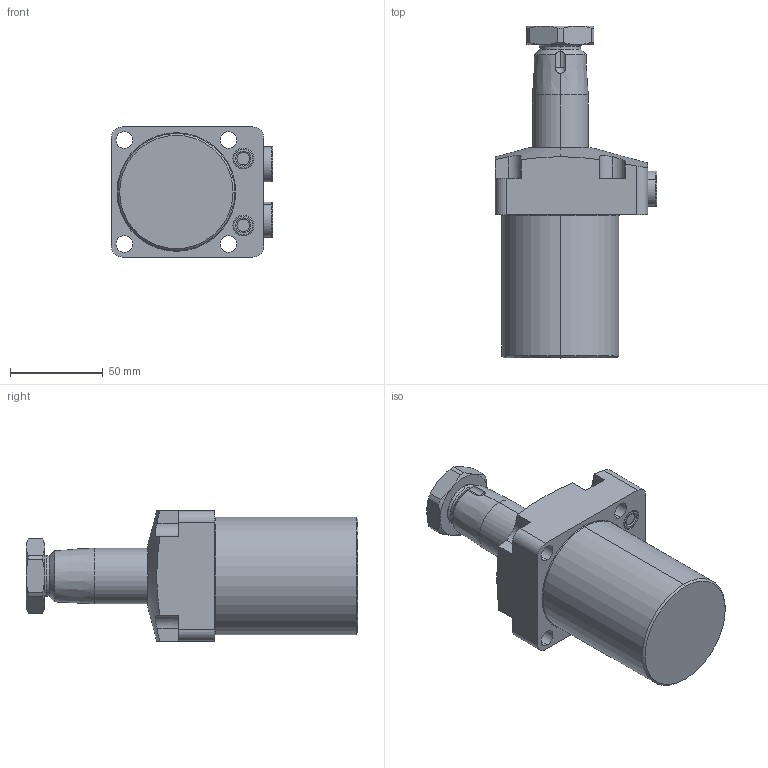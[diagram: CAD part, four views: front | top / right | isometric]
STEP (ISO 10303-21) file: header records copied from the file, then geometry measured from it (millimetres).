
FILE_DESCRIPTION(/* description */ (''),/* implementation_level */ '2;1');
FILE_NAME(/* name */ 'TRC10-L.stp',/* time_stamp */ '2025-01-04T08:41:36+08:00',/* author */ (''),/* organization */ (''),/* preprocessor_version */ 'ST-DEVELOPER v16.7',/* originating_system */ 'SIEMENS PLM Software NX 12.0',/* authorisation */ '');
FILE_SCHEMA (('AUTOMOTIVE_DESIGN { 1 0 10303 214 3 1 1 1 }'));
Length unit declared in the file: millimetre
Products named in the file (5): TRC10-L-01; TRC10-L-02; TRC10-L-03; TRC10-L-04; TRC10-L_stp
Assembly tree (5 placements, depth 2):
  TRC10-L_stp
    TRC10-L-04  x2
    TRC10-L-03
    TRC10-L-02
    TRC10-L-01
Bounding box: 86.8 x 178.5 x 70 mm (x, y, z)
Volume: 441937.7 mm3; surface area: 55336.9 mm2
Topology: 5 solids, 7 shells, 203 faces, 465 edges, 288 vertices
Faces by surface type: cylinder 73, plane 67, cone 40, torus 22, sphere 1
Entity records: 5410 total; most frequent: CARTESIAN_POINT 1086, DIRECTION 938, ORIENTED_EDGE 836, EDGE_CURVE 418, AXIS2_PLACEMENT_3D 386, VERTEX_POINT 260, EDGE_LOOP 206, CIRCLE 199
